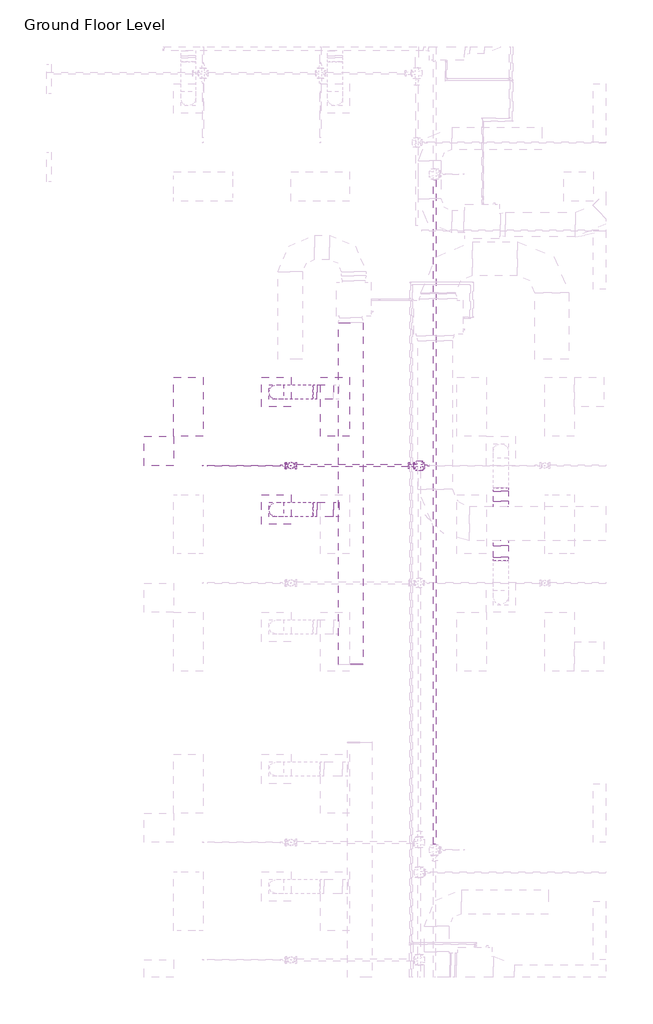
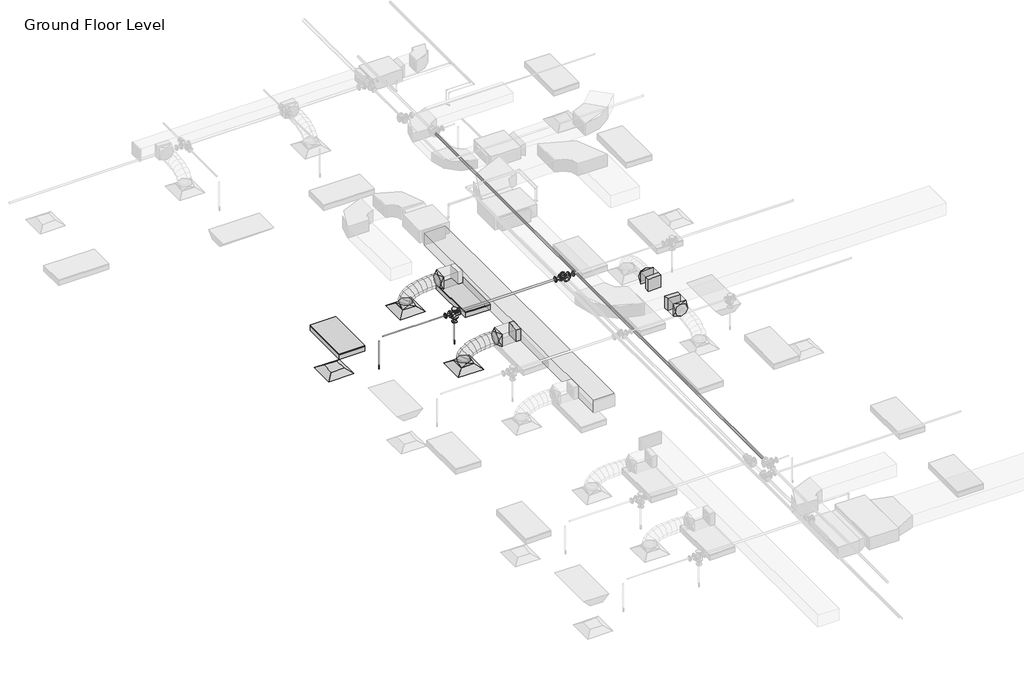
# One storey, part 30 of 74: 9 duct fittings, 7 duct segments, 6 pipe fittings, 5 pipe segments, 3 air terminals, 2 fire suppression terminals, 2 light fixtures.
"""IFC4 building model written with IfcOpenShell, lengths in millimetres."""

from ifc_helpers import new_model, si_unit, point, frame, frame_2d, origin, place, context, project, spatial, polyline, circle_curve, ellipse_curve, trimmed, segment, composite_curve, outline, extrude, transform, mapped, element, save
from ifc_brep_helpers import plane_surface, cylinder_surface, advanced_brep
from components import m_return_diffuser_600_x_600_face_300_x_300_connection_ff221211, m_rectangular_takeoff_standard_cb0ccb98, m_rectangular_takeoff_standard_2be5eba1, m_rectangular_to_round_transition_angle_45_degree_641efff0, m_sprinkler_dry_pendent_hosted_15_mm_dry_pendent_9bda8e11, m_troffer_light_parabolic_rectangular1_0600x1200mm_4_lamp_86473d4a, m_reducer_flanged_cs_class_150_standard_83138b42, m_reducer_flanged_cs_class_150_standard_dc68ad9d, m_reducer_flanged_cs_class_150_standard_678fb8eb, m_reducer_flanged_cs_class_150_standard_84a20e65, m_tee_round_base_flanged_cs_class_150_standard_9c9133d0, m_tee_round_base_flanged_cs_class_150_standard_ab36f383

model = new_model("IFC4")

# Units and contexts
model_context = context("Model", 3, world=origin())
ifc_project = project(units=[si_unit("LENGTHUNIT", "METRE", prefix="MILLI")], contexts=[model_context])

# Site, building, storey
site = spatial("IfcSite", under=ifc_project)
building = spatial("IfcBuilding", under=site)
storey = spatial("IfcBuildingStorey", under=building, Name="Ground Floor Level", Elevation=900.0)

# Air terminals
placement = place(None, origin())
m_return_diffuser_600_x_600_face_300_x_300_connection_shape = m_return_diffuser_600_x_600_face_300_x_300_connection_ff221211(model_context)
element("IfcAirTerminal", 1, ObjectType="M_Return Diffuser : 600 x 600 Face 300 x 300 Connection", at=placement, inside=storey, context=model_context, shape_type="MappedRepresentation", body=[
    mapped(m_return_diffuser_600_x_600_face_300_x_300_connection_shape, transform((362.7672395, -10664.7846466, 3650.0), x_axis=(1.0, 0.0, 0.0), y_axis=(0.0, 1.0, 0.0), z_axis=(0.0, 0.0, 1.0))),
])
element("IfcAirTerminal", 2, ObjectType="M_Supply Diffuser : 600 x 600 Face 300 x 300 Connection", at=placement, inside=storey, context=model_context, shape_type="MappedRepresentation", body=[
    mapped(m_return_diffuser_600_x_600_face_300_x_300_connection_shape, transform((2762.7672395, -9464.7846466, 3650.0), x_axis=(1.0, 0.0, 0.0), y_axis=(0.0, 1.0, 0.0), z_axis=(0.0, 0.0, 1.0))),
])
element("IfcAirTerminal", 3, ObjectType="M_Supply Diffuser : 600 x 600 Face 300 x 300 Connection", at=placement, inside=storey, context=model_context, shape_type="MappedRepresentation", body=[
    mapped(m_return_diffuser_600_x_600_face_300_x_300_connection_shape, transform((2762.7672395, -11864.7846466, 3650.0), x_axis=(1.0, 0.0, 0.0), y_axis=(0.0, 1.0, 0.0), z_axis=(0.0, 0.0, 1.0))),
])

# Duct fittings
m_rectangular_takeoff_standard_shape = m_rectangular_takeoff_standard_cb0ccb98(model_context)
element("IfcDuctFitting", 4, ObjectType="M_Rectangular Takeoff : Standard", at=placement, inside=storey, context=model_context, shape_type="MappedRepresentation", body=[
    mapped(m_rectangular_takeoff_standard_shape, transform((7352.7672395, -11799.3358641, 4099.9875), x_axis=(0.0, 1.0, 0.0), y_axis=(1.0, 0.0, 0.0), z_axis=(0.0, 0.0, -1.0))),
])
m_rectangular_takeoff_standard_2_shape = m_rectangular_takeoff_standard_2be5eba1(model_context)
element("IfcDuctFitting", 5, ObjectType="M_Rectangular Takeoff : Standard", at=placement, inside=storey, context=model_context, shape_type="MappedRepresentation", body=[
    mapped(m_rectangular_takeoff_standard_2_shape, transform((7352.7672395, -12499.3358641, 4099.9875), x_axis=(0.0, -1.0, 0.0), y_axis=(-1.0, 0.0, 0.0), z_axis=(0.0, 0.0, -1.0))),
])
element("IfcDuctFitting", 6, ObjectType="M_Rectangular Takeoff : Standard", at=placement, inside=storey, context=model_context, shape_type="MappedRepresentation", body=[
    mapped(m_rectangular_takeoff_standard_2_shape, transform((4032.1581888, -11864.7846466, 4099.9931113), x_axis=(-1.0, 0.0, 0.0), y_axis=(0.0, 1.0, 0.0), z_axis=(0.0, 0.0, -1.0))),
])
m_rectangular_to_round_transition_angle_45_degree_shape = m_rectangular_to_round_transition_angle_45_degree_641efff0(model_context)
element("IfcDuctFitting", 7, ObjectType="M_Rectangular to Round Transition - Angle : 45 Degree", at=placement, inside=storey, context=model_context, shape_type="MappedRepresentation", body=[
    mapped(m_rectangular_to_round_transition_angle_45_degree_shape, transform((2762.7672395, -9464.7846466, 3751.6), x_axis=(0.0, 0.0, 1.0), y_axis=(-1.0, 0.0, 0.0), z_axis=(0.0, -1.0, 0.0))),
])
element("IfcDuctFitting", 8, ObjectType="M_Rectangular to Round Transition - Angle : 45 Degree", at=placement, inside=storey, context=model_context, shape_type="MappedRepresentation", body=[
    mapped(m_rectangular_to_round_transition_angle_45_degree_shape, transform((3590.1057325, -9464.7846466, 4099.9974383), x_axis=(-1.0, 0.0, 0.0), y_axis=(0.0, -1.0, 0.0), z_axis=(0.0, 0.0, 1.0))),
])
element("IfcDuctFitting", 9, ObjectType="M_Rectangular to Round Transition - Angle : 45 Degree", at=placement, inside=storey, context=model_context, shape_type="MappedRepresentation", body=[
    mapped(m_rectangular_to_round_transition_angle_45_degree_shape, transform((2762.7672395, -11864.7846466, 3751.6), x_axis=(0.0, 0.0, 1.0), y_axis=(-1.0, 0.0, 0.0), z_axis=(0.0, -1.0, 0.0))),
])
element("IfcDuctFitting", 10, ObjectType="M_Rectangular to Round Transition - Angle : 45 Degree", at=placement, inside=storey, context=model_context, shape_type="MappedRepresentation", body=[
    mapped(m_rectangular_to_round_transition_angle_45_degree_shape, transform((3590.1100595, -11864.7846466, 4099.9931113), x_axis=(-1.0, 0.0, 0.0), y_axis=(0.0, -1.0, 0.0), z_axis=(0.0, 0.0, 1.0))),
])
element("IfcDuctFitting", 11, ObjectType="M_Rectangular to Round Transition - Angle : 45 Degree", at=placement, inside=storey, context=model_context, shape_type="MappedRepresentation", body=[
    mapped(m_rectangular_to_round_transition_angle_45_degree_shape, transform((7352.7672395, -11492.1330779, 4099.9875), x_axis=(0.0, 1.0, 0.0), y_axis=(-1.0, 0.0, 0.0), z_axis=(0.0, 0.0, 1.0))),
])
element("IfcDuctFitting", 12, ObjectType="M_Rectangular to Round Transition - Angle : 45 Degree", at=placement, inside=storey, context=model_context, shape_type="MappedRepresentation", body=[
    mapped(m_rectangular_to_round_transition_angle_45_degree_shape, transform((7352.7672395, -12837.4362153, 4099.9875), x_axis=(0.0, -1.0, 0.0), y_axis=(1.0, 0.0, 0.0), z_axis=(0.0, 0.0, 1.0))),
])

# Duct segments
element("IfcDuctSegment", 13, ObjectType="Flex - Round", at=placement, inside=storey, context=model_context, shape_type="AdvancedBrep", body=[
    advanced_brep(
    [(2912.7672395, -9464.7846466, 3826.6), (2762.7672395, -9614.7846466, 3826.6), (2612.7672395, -9464.7846466, 3826.6), (2762.7672395, -9314.7846466, 3826.6), (2912.7672395, -9464.7846466, 3832.2944653), (2762.7672395, -9614.7846466, 3857.937819), (2612.7672395, -9464.7846466, 3883.5811727), (2762.7672395, -9314.7846466, 3857.937819), (2913.5210607, -9464.7846466, 3834.4347571), (2779.7832431, -9614.7846466, 3906.2506195), (2646.0454255, -9464.7846466, 3978.066482), (2779.7832431, -9314.7846466, 3906.2506195), (2931.1727776, -9464.7846466, 3857.8014637), (2826.9673168, -9614.7846466, 3968.7111959), (2722.761856, -9464.7846466, 4079.620928), (2826.9673168, -9314.7846466, 3968.7111959), (2967.4569198, -9464.7846466, 3881.8155831), (2898.5235552, -9614.7846466, 4016.0696268), (2829.5901905, -9464.7846466, 4150.3236705), (2898.5235552, -9314.7846466, 4016.0696268), (3032.2160605, -9464.7846466, 3906.4914754), (2988.6560526, -9614.7846466, 4050.4138102), (2945.0960447, -9464.7846466, 4194.336145), (2988.6560526, -9314.7846466, 4050.4138102), (3118.1291117, -9464.7846466, 3926.0410022), (3091.5689036, -9614.7846466, 4073.8316439), (3065.0086955, -9464.7846466, 4221.6222855), (3091.5689036, -9314.7846466, 4073.8316439), (3216.6164827, -9464.7846466, 3939.1067008), (3201.4662026, -9614.7846466, 4088.4110257), (3186.3159225, -9464.7846466, 4237.7153505), (3201.4662026, -9314.7846466, 4088.4110257), (3320.0568882, -9464.7846466, 3946.3967129), (3312.5520441, -9614.7846466, 4096.2398535), (3305.0472001, -9464.7846466, 4246.0829941), (3312.5520441, -9314.7846466, 4096.2398535), (3421.7217312, -9464.7846466, 3949.4197495), (3419.0305226, -9614.7846466, 4099.4060251), (3416.339314, -9464.7846466, 4249.3923007), (3419.0305226, -9314.7846466, 4099.4060251), (3516.0290748, -9464.7846466, 3950.0002802), (3515.1057325, -9614.7846466, 4099.9974383), (3514.1823902, -9464.7846466, 4249.9945964), (3515.1057325, -9314.7846466, 4099.9974383)],
    [
        (0, 1, circle_curve(frame((2762.7672395, -9464.7846466, 3826.6), z_axis=(0.0, 0.0, -1.0), x_axis=(1.0, 0.0, 0.0)), 150.0)),
        (1, 2, circle_curve(frame((2762.7672395, -9464.7846466, 3826.6), z_axis=(0.0, 0.0, -1.0), x_axis=(1.0, 0.0, 0.0)), 150.0)),
        (2, 3, circle_curve(frame((2762.7672395, -9464.7846466, 3826.6), z_axis=(0.0, 0.0, -1.0), x_axis=(1.0, 0.0, 0.0)), 150.0)),
        (3, 0, circle_curve(frame((2762.7672395, -9464.7846466, 3826.6), z_axis=(0.0, 0.0, -1.0), x_axis=(1.0, 0.0, 0.0)), 150.0)),
        (0, 4),
        (4, 5, ellipse_curve(frame((2762.7672395, -9464.7846466, 3857.937819), z_axis=(-0.1685109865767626, 0.0, -0.9856997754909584), x_axis=(0.9856997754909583, 0.0, -0.16851098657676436)), 152.1761532, 150.0)),
        (5, 1),
        (5, 6, ellipse_curve(frame((2762.7672395, -9464.7846466, 3857.937819), z_axis=(-0.1685109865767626, 0.0, -0.9856997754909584), x_axis=(0.9856997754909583, 0.0, -0.16851098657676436)), 152.1761532, 150.0)),
        (6, 2),
        (6, 7, ellipse_curve(frame((2762.7672395, -9464.7846466, 3857.937819), z_axis=(-0.1685109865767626, 0.0, -0.9856997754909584), x_axis=(0.9856997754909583, 0.0, -0.16851098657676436)), 152.1761532, 150.0)),
        (7, 3),
        (7, 4, ellipse_curve(frame((2762.7672395, -9464.7846466, 3857.937819), z_axis=(-0.1685109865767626, 0.0, -0.9856997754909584), x_axis=(0.9856997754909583, 0.0, -0.16851098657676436)), 152.1761532, 150.0)),
        (4, 8),
        (8, 9, ellipse_curve(frame((2779.7832431, -9464.7846466, 3906.2506195), z_axis=(-0.47309443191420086, 0.0, -0.8810117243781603), x_axis=(0.8810117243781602, 0.0, -0.4730944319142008)), 151.80027, 150.0)),
        (9, 5),
        (9, 10, ellipse_curve(frame((2779.7832431, -9464.7846466, 3906.2506195), z_axis=(-0.47309443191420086, 0.0, -0.8810117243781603), x_axis=(0.8810117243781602, 0.0, -0.4730944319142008)), 151.80027, 150.0)),
        (10, 6),
        (10, 11, ellipse_curve(frame((2779.7832431, -9464.7846466, 3906.2506195), z_axis=(-0.47309443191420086, 0.0, -0.8810117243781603), x_axis=(0.8810117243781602, 0.0, -0.4730944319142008)), 151.80027, 150.0)),
        (11, 7),
        (11, 8, ellipse_curve(frame((2779.7832431, -9464.7846466, 3906.2506195), z_axis=(-0.47309443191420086, 0.0, -0.8810117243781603), x_axis=(0.8810117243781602, 0.0, -0.4730944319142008)), 151.80027, 150.0)),
        (8, 12),
        (12, 13, ellipse_curve(frame((2826.9673168, -9464.7846466, 3968.7111959), z_axis=(-0.7287905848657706, 0.0, -0.6847366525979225), x_axis=(0.6847366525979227, 0.0, -0.7287905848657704)), 152.1832669, 150.0)),
        (13, 9),
        (13, 14, ellipse_curve(frame((2826.9673168, -9464.7846466, 3968.7111959), z_axis=(-0.7287905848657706, 0.0, -0.6847366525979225), x_axis=(0.6847366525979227, 0.0, -0.7287905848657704)), 152.1832669, 150.0)),
        (14, 10),
        (14, 15, ellipse_curve(frame((2826.9673168, -9464.7846466, 3968.7111959), z_axis=(-0.7287905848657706, 0.0, -0.6847366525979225), x_axis=(0.6847366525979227, 0.0, -0.7287905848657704)), 152.1832669, 150.0)),
        (15, 11),
        (15, 12, ellipse_curve(frame((2826.9673168, -9464.7846466, 3968.7111959), z_axis=(-0.7287905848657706, 0.0, -0.6847366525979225), x_axis=(0.6847366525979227, 0.0, -0.7287905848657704)), 152.1832669, 150.0)),
        (12, 16),
        (16, 17, ellipse_curve(frame((2898.5235552, -9464.7846466, 4016.0696268), z_axis=(-0.8895882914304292, 0.0, -0.45676325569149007), x_axis=(0.45676325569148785, 0.0, -0.8895882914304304)), 150.9170535, 150.0)),
        (17, 13),
        (17, 18, ellipse_curve(frame((2898.5235552, -9464.7846466, 4016.0696268), z_axis=(-0.8895882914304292, 0.0, -0.45676325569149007), x_axis=(0.45676325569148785, 0.0, -0.8895882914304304)), 150.9170535, 150.0)),
        (18, 14),
        (18, 19, ellipse_curve(frame((2898.5235552, -9464.7846466, 4016.0696268), z_axis=(-0.8895882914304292, 0.0, -0.45676325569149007), x_axis=(0.45676325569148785, 0.0, -0.8895882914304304)), 150.9170535, 150.0)),
        (19, 15),
        (19, 16, ellipse_curve(frame((2898.5235552, -9464.7846466, 4016.0696268), z_axis=(-0.8895882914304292, 0.0, -0.45676325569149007), x_axis=(0.45676325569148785, 0.0, -0.8895882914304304)), 150.9170535, 150.0)),
        (16, 20),
        (20, 21, ellipse_curve(frame((2988.6560526, -9464.7846466, 4050.4138102), z_axis=(-0.9571218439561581, 0.0, -0.2896856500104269), x_axis=(0.28968565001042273, 0.0, -0.9571218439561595)), 150.3699197, 150.0)),
        (21, 17),
        (21, 22, ellipse_curve(frame((2988.6560526, -9464.7846466, 4050.4138102), z_axis=(-0.9571218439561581, 0.0, -0.2896856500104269), x_axis=(0.28968565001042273, 0.0, -0.9571218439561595)), 150.3699197, 150.0)),
        (22, 18),
        (22, 23, ellipse_curve(frame((2988.6560526, -9464.7846466, 4050.4138102), z_axis=(-0.9571218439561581, 0.0, -0.2896856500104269), x_axis=(0.28968565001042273, 0.0, -0.9571218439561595)), 150.3699197, 150.0)),
        (23, 19),
        (23, 20, ellipse_curve(frame((2988.6560526, -9464.7846466, 4050.4138102), z_axis=(-0.9571218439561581, 0.0, -0.2896856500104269), x_axis=(0.28968565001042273, 0.0, -0.9571218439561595)), 150.3699197, 150.0)),
        (20, 24),
        (24, 25, ellipse_curve(frame((3091.5689036, -9464.7846466, 4073.8316439), z_axis=(-0.9842321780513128, 0.0, -0.1768813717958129), x_axis=(0.17688137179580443, 0.0, -0.9842321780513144)), 150.1583111, 150.0)),
        (25, 21),
        (25, 26, ellipse_curve(frame((3091.5689036, -9464.7846466, 4073.8316439), z_axis=(-0.9842321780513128, 0.0, -0.1768813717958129), x_axis=(0.17688137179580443, 0.0, -0.9842321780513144)), 150.1583111, 150.0)),
        (26, 22),
        (26, 27, ellipse_curve(frame((3091.5689036, -9464.7846466, 4073.8316439), z_axis=(-0.9842321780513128, 0.0, -0.1768813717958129), x_axis=(0.17688137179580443, 0.0, -0.9842321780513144)), 150.1583111, 150.0)),
        (27, 23),
        (27, 24, ellipse_curve(frame((3091.5689036, -9464.7846466, 4073.8316439), z_axis=(-0.9842321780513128, 0.0, -0.1768813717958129), x_axis=(0.17688137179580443, 0.0, -0.9842321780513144)), 150.1583111, 150.0)),
        (24, 28),
        (28, 29, ellipse_curve(frame((3201.4662026, -9464.7846466, 4088.4110257), z_axis=(-0.994891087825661, 0.0, -0.10095406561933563), x_axis=(0.10095406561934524, 0.0, -0.99489108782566)), 150.0710245, 150.0)),
        (29, 25),
        (29, 30, ellipse_curve(frame((3201.4662026, -9464.7846466, 4088.4110257), z_axis=(-0.994891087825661, 0.0, -0.10095406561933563), x_axis=(0.10095406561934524, 0.0, -0.99489108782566)), 150.0710245, 150.0)),
        (30, 26),
        (30, 31, ellipse_curve(frame((3201.4662026, -9464.7846466, 4088.4110257), z_axis=(-0.994891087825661, 0.0, -0.10095406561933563), x_axis=(0.10095406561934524, 0.0, -0.99489108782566)), 150.0710245, 150.0)),
        (31, 27),
        (31, 28, ellipse_curve(frame((3201.4662026, -9464.7846466, 4088.4110257), z_axis=(-0.994891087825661, 0.0, -0.10095406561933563), x_axis=(0.10095406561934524, 0.0, -0.99489108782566)), 150.0710245, 150.0)),
        (28, 32),
        (32, 33, ellipse_curve(frame((3312.5520441, -9464.7846466, 4096.2398535), z_axis=(-0.9987481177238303, 0.0, -0.05002196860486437), x_axis=(0.05002196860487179, 0.0, -0.9987481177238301)), 150.0309617, 150.0)),
        (33, 29),
        (33, 34, ellipse_curve(frame((3312.5520441, -9464.7846466, 4096.2398535), z_axis=(-0.9987481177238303, 0.0, -0.05002196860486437), x_axis=(0.05002196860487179, 0.0, -0.9987481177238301)), 150.0309617, 150.0)),
        (34, 30),
        (34, 35, ellipse_curve(frame((3312.5520441, -9464.7846466, 4096.2398535), z_axis=(-0.9987481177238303, 0.0, -0.05002196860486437), x_axis=(0.05002196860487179, 0.0, -0.9987481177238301)), 150.0309617, 150.0)),
        (35, 31),
        (35, 32, ellipse_curve(frame((3312.5520441, -9464.7846466, 4096.2398535), z_axis=(-0.9987481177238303, 0.0, -0.05002196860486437), x_axis=(0.05002196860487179, 0.0, -0.9987481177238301)), 150.0309617, 150.0)),
        (32, 36),
        (36, 37, ellipse_curve(frame((3419.0305226, -9464.7846466, 4099.4060251), z_axis=(-0.9998390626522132, 0.0, -0.01794014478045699), x_axis=(0.017940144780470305, 0.0, -0.9998390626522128)), 150.0104179, 150.0)),
        (37, 33),
        (37, 38, ellipse_curve(frame((3419.0305226, -9464.7846466, 4099.4060251), z_axis=(-0.9998390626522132, 0.0, -0.01794014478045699), x_axis=(0.017940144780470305, 0.0, -0.9998390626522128)), 150.0104179, 150.0)),
        (38, 34),
        (38, 39, ellipse_curve(frame((3419.0305226, -9464.7846466, 4099.4060251), z_axis=(-0.9998390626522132, 0.0, -0.01794014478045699), x_axis=(0.017940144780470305, 0.0, -0.9998390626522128)), 150.0104179, 150.0)),
        (39, 35),
        (39, 36, ellipse_curve(frame((3419.0305226, -9464.7846466, 4099.4060251), z_axis=(-0.9998390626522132, 0.0, -0.01794014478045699), x_axis=(0.017940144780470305, 0.0, -0.9998390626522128)), 150.0104179, 150.0)),
        (36, 40),
        (40, 41, circle_curve(frame((3515.1057325, -9464.7846466, 4099.9974383), z_axis=(-0.9999810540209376, 0.0, -0.006155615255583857), x_axis=(0.006155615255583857, 0.0, -0.9999810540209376)), 150.0)),
        (41, 37),
        (41, 42, circle_curve(frame((3515.1057325, -9464.7846466, 4099.9974383), z_axis=(-0.9999810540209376, 0.0, -0.006155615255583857), x_axis=(0.006155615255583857, 0.0, -0.9999810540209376)), 150.0)),
        (42, 38),
        (42, 43, circle_curve(frame((3515.1057325, -9464.7846466, 4099.9974383), z_axis=(-0.9999810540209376, 0.0, -0.006155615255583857), x_axis=(0.006155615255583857, 0.0, -0.9999810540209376)), 150.0)),
        (43, 39),
        (43, 40, circle_curve(frame((3515.1057325, -9464.7846466, 4099.9974383), z_axis=(-0.9999810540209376, 0.0, -0.006155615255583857), x_axis=(0.006155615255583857, 0.0, -0.9999810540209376)), 150.0)),
    ],
    [
        plane_surface(frame((2762.7672395, -9614.7846466, 3826.6), z_axis=(0.0, 0.0, -1.0), x_axis=(1.0, 0.0, 0.0))),
        cylinder_surface(frame((2762.7672395, -9464.7846466, 3826.6), z_axis=(0.0, 0.0, -1.0), x_axis=(1.0, 0.0, 0.0)), 150.0),
        cylinder_surface(frame((2762.7672395, -9464.7846466, 3857.937819), z_axis=(-0.3322024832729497, 0.0, -0.9432080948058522), x_axis=(0.9432080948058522, 0.0, -0.3322024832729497)), 150.0),
        cylinder_surface(frame((2779.7832431, -9464.7846466, 3906.2506195), z_axis=(-0.6027650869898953, 0.0, -0.7979186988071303), x_axis=(0.7979186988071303, 0.0, -0.6027650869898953)), 150.0),
        cylinder_surface(frame((2826.9673168, -9464.7846466, 3968.7111959), z_axis=(-0.8339051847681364, 0.0, -0.5519077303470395), x_axis=(0.5519077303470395, 0.0, -0.8339051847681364)), 150.0),
        cylinder_surface(frame((2898.5235552, -9464.7846466, 4016.0696268), z_axis=(-0.9344601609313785, 0.0, -0.3560677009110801), x_axis=(0.3560677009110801, 0.0, -0.9344601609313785)), 150.0),
        cylinder_surface(frame((2988.6560526, -9464.7846466, 4050.4138102), z_axis=(-0.9750743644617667, 0.0, -0.22187830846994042), x_axis=(0.22187830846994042, 0.0, -0.9750743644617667)), 150.0),
        cylinder_surface(frame((3091.5689036, -9464.7846466, 4073.8316439), z_axis=(-0.9913146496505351, 0.0, -0.13151146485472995), x_axis=(0.13151146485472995, 0.0, -0.9913146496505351)), 150.0),
        cylinder_surface(frame((3201.4662026, -9464.7846466, 4088.4110257), z_axis=(-0.99752581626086, 0.0, -0.07030110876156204), x_axis=(0.07030110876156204, 0.0, -0.99752581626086)), 150.0),
        cylinder_surface(frame((3312.5520441, -9464.7846466, 4096.2398535), z_axis=(-0.9995581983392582, 0.0, -0.029722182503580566), x_axis=(0.029722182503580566, 0.0, -0.9995581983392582)), 150.0),
        cylinder_surface(frame((3419.0305226, -9464.7846466, 4099.4060251), z_axis=(-0.9999810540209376, 0.0, -0.006155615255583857), x_axis=(0.006155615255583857, 0.0, -0.9999810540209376)), 150.0),
        plane_surface(frame((3515.1057325, -9614.7846466, 4099.9974383), z_axis=(0.9999810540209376, 0.0, 0.006155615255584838), x_axis=(0.006155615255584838, 0.0, -0.9999810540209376))),
    ],
    [
        (0, [[1, 2, 3, 4]]),
        (1, [[-1, 5, 6, 7]]),
        (1, [[-2, -7, 8, 9]]),
        (1, [[-3, -9, 10, 11]]),
        (1, [[-4, -11, 12, -5]]),
        (2, [[-6, 13, 14, 15]]),
        (2, [[-8, -15, 16, 17]]),
        (2, [[-10, -17, 18, 19]]),
        (2, [[-12, -19, 20, -13]]),
        (3, [[-14, 21, 22, 23]]),
        (3, [[-16, -23, 24, 25]]),
        (3, [[-18, -25, 26, 27]]),
        (3, [[-20, -27, 28, -21]]),
        (4, [[-22, 29, 30, 31]]),
        (4, [[-24, -31, 32, 33]]),
        (4, [[-26, -33, 34, 35]]),
        (4, [[-28, -35, 36, -29]]),
        (5, [[-30, 37, 38, 39]]),
        (5, [[-32, -39, 40, 41]]),
        (5, [[-34, -41, 42, 43]]),
        (5, [[-36, -43, 44, -37]]),
        (6, [[-38, 45, 46, 47]]),
        (6, [[-40, -47, 48, 49]]),
        (6, [[-42, -49, 50, 51]]),
        (6, [[-44, -51, 52, -45]]),
        (7, [[-46, 53, 54, 55]]),
        (7, [[-48, -55, 56, 57]]),
        (7, [[-50, -57, 58, 59]]),
        (7, [[-52, -59, 60, -53]]),
        (8, [[-54, 61, 62, 63]]),
        (8, [[-56, -63, 64, 65]]),
        (8, [[-58, -65, 66, 67]]),
        (8, [[-60, -67, 68, -61]]),
        (9, [[-62, 69, 70, 71]]),
        (9, [[-64, -71, 72, 73]]),
        (9, [[-66, -73, 74, 75]]),
        (9, [[-68, -75, 76, -69]]),
        (10, [[-70, 77, 78, 79]]),
        (10, [[-72, -79, 80, 81]]),
        (10, [[-74, -81, 82, 83]]),
        (10, [[-76, -83, 84, -77]]),
        (11, [[-84, -82, -80, -78]]),
    ],
),
])
element("IfcDuctSegment", 14, ObjectType="Flex - Round", at=placement, inside=storey, context=model_context, shape_type="AdvancedBrep", body=[
    advanced_brep(
    [(2912.7672395, -11864.7846466, 3826.6), (2762.7672395, -12014.7846466, 3826.6), (2612.7672395, -11864.7846466, 3826.6), (2762.7672395, -11714.7846466, 3826.6), (2912.7672395, -11864.7846466, 3832.2944249), (2762.7672395, -12014.7846466, 3857.9380006), (2612.7672395, -11864.7846466, 3883.5815763), (2762.7672395, -11714.7846466, 3857.9380006), (2913.5209081, -11864.7846466, 3834.434264), (2779.783363, -12014.7846466, 3906.2506984), (2646.045818, -11864.7846466, 3978.0671329), (2779.783363, -11714.7846466, 3906.2506984), (2931.1724836, -11864.7846466, 3857.8005181), (2826.9677634, -12014.7846466, 3968.7109978), (2722.7630433, -11864.7846466, 4079.6214776), (2826.9677634, -11714.7846466, 3968.7109978), (2967.4566828, -11864.7846466, 3881.8142389), (2898.5244852, -12014.7846466, 4016.0688885), (2829.5922876, -11864.7846466, 4150.3235382), (2898.5244852, -11714.7846466, 4016.0688885), (3032.2163051, -11864.7846466, 3906.4896423), (2988.6575729, -12014.7846466, 4050.4123609), (2945.0988407, -11864.7846466, 4194.3350795), (2988.6575729, -11714.7846466, 4050.4123609), (3118.1300698, -11864.7846466, 3926.0385497), (3091.5710711, -12014.7846466, 4073.8294054), (3065.0120723, -11864.7846466, 4221.620261), (3091.5710711, -11714.7846466, 4073.8294054), (3216.6182532, -11864.7846466, 3939.1035838), (3201.4690243, -12014.7846466, 4088.4080122), (3186.3197953, -11864.7846466, 4237.7124407), (3201.4690243, -11714.7846466, 4088.4080122), (3320.0595033, -11864.7846466, 3946.3929932), (3312.555477, -12014.7846466, 4096.2361719), (3305.0514507, -11864.7846466, 4246.0793507), (3312.555477, -11714.7846466, 4096.2361719), (3421.725202, -11864.7846466, 3949.415593), (3419.0344739, -12014.7846466, 4099.4018748), (3416.3437458, -11864.7846466, 4249.3881567), (3419.0344739, -11714.7846466, 4099.4018748), (3516.0331222, -11864.7846466, 3949.9959514), (3515.1100595, -12014.7846466, 4099.9931113), (3514.1869969, -11864.7846466, 4249.9902711), (3515.1100595, -11714.7846466, 4099.9931113)],
    [
        (0, 1, circle_curve(frame((2762.7672395, -11864.7846466, 3826.6), z_axis=(0.0, 0.0, -1.0), x_axis=(1.0, 0.0, 0.0)), 150.0)),
        (1, 2, circle_curve(frame((2762.7672395, -11864.7846466, 3826.6), z_axis=(0.0, 0.0, -1.0), x_axis=(1.0, 0.0, 0.0)), 150.0)),
        (2, 3, circle_curve(frame((2762.7672395, -11864.7846466, 3826.6), z_axis=(0.0, 0.0, -1.0), x_axis=(1.0, 0.0, 0.0)), 150.0)),
        (3, 0, circle_curve(frame((2762.7672395, -11864.7846466, 3826.6), z_axis=(0.0, 0.0, -1.0), x_axis=(1.0, 0.0, 0.0)), 150.0)),
        (0, 4),
        (4, 5, ellipse_curve(frame((2762.7672395, -11864.7846466, 3857.9380006), z_axis=(-0.1685124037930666, 0.0, -0.985699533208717), x_axis=(0.985699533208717, 0.0, -0.16851240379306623)), 152.1761906, 150.0)),
        (5, 1),
        (5, 6, ellipse_curve(frame((2762.7672395, -11864.7846466, 3857.9380006), z_axis=(-0.1685124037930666, 0.0, -0.985699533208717), x_axis=(0.985699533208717, 0.0, -0.16851240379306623)), 152.1761906, 150.0)),
        (6, 2),
        (6, 7, ellipse_curve(frame((2762.7672395, -11864.7846466, 3857.9380006), z_axis=(-0.1685124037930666, 0.0, -0.985699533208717), x_axis=(0.985699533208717, 0.0, -0.16851240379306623)), 152.1761906, 150.0)),
        (7, 3),
        (7, 4, ellipse_curve(frame((2762.7672395, -11864.7846466, 3857.9380006), z_axis=(-0.1685124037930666, 0.0, -0.985699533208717), x_axis=(0.985699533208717, 0.0, -0.16851240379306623)), 152.1761906, 150.0)),
        (4, 8),
        (8, 9, ellipse_curve(frame((2779.783363, -11864.7846466, 3906.2506984), z_axis=(-0.47309810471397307, 0.0, -0.8810097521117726), x_axis=(0.8810097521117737, 0.0, -0.47309810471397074)), 151.8003005, 150.0)),
        (9, 5),
        (9, 10, ellipse_curve(frame((2779.783363, -11864.7846466, 3906.2506984), z_axis=(-0.47309810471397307, 0.0, -0.8810097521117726), x_axis=(0.8810097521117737, 0.0, -0.47309810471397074)), 151.8003005, 150.0)),
        (10, 6),
        (10, 11, ellipse_curve(frame((2779.783363, -11864.7846466, 3906.2506984), z_axis=(-0.47309810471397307, 0.0, -0.8810097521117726), x_axis=(0.8810097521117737, 0.0, -0.47309810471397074)), 151.8003005, 150.0)),
        (11, 7),
        (11, 8, ellipse_curve(frame((2779.783363, -11864.7846466, 3906.2506984), z_axis=(-0.47309810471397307, 0.0, -0.8810097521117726), x_axis=(0.8810097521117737, 0.0, -0.47309810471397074)), 151.8003005, 150.0)),
        (8, 12),
        (12, 13, ellipse_curve(frame((2826.9677634, -11864.7846466, 3968.7109978), z_axis=(-0.7287953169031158, 0.0, -0.684731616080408), x_axis=(0.6847316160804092, 0.0, -0.7287953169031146)), 152.1833047, 150.0)),
        (13, 9),
        (13, 14, ellipse_curve(frame((2826.9677634, -11864.7846466, 3968.7109978), z_axis=(-0.7287953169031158, 0.0, -0.684731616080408), x_axis=(0.6847316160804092, 0.0, -0.7287953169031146)), 152.1833047, 150.0)),
        (14, 10),
        (14, 15, ellipse_curve(frame((2826.9677634, -11864.7846466, 3968.7109978), z_axis=(-0.7287953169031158, 0.0, -0.684731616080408), x_axis=(0.6847316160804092, 0.0, -0.7287953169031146)), 152.1833047, 150.0)),
        (15, 11),
        (15, 12, ellipse_curve(frame((2826.9677634, -11864.7846466, 3968.7109978), z_axis=(-0.7287953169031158, 0.0, -0.684731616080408), x_axis=(0.6847316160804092, 0.0, -0.7287953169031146)), 152.1833047, 150.0)),
        (12, 16),
        (16, 17, ellipse_curve(frame((2898.5244852, -11864.7846466, 4016.0688885), z_axis=(-0.8895922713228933, 0.0, -0.45675550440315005), x_axis=(0.4567555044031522, 0.0, -0.8895922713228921)), 150.9170594, 150.0)),
        (17, 13),
        (17, 18, ellipse_curve(frame((2898.5244852, -11864.7846466, 4016.0688885), z_axis=(-0.8895922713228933, 0.0, -0.45675550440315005), x_axis=(0.4567555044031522, 0.0, -0.8895922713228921)), 150.9170594, 150.0)),
        (18, 14),
        (18, 19, ellipse_curve(frame((2898.5244852, -11864.7846466, 4016.0688885), z_axis=(-0.8895922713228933, 0.0, -0.45675550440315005), x_axis=(0.4567555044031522, 0.0, -0.8895922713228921)), 150.9170594, 150.0)),
        (19, 15),
        (19, 16, ellipse_curve(frame((2898.5244852, -11864.7846466, 4016.0688885), z_axis=(-0.8895922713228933, 0.0, -0.45675550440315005), x_axis=(0.4567555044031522, 0.0, -0.8895922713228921)), 150.9170594, 150.0)),
        (16, 20),
        (20, 21, ellipse_curve(frame((2988.6575729, -11864.7846466, 4050.4123609), z_axis=(-0.957124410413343, 0.0, -0.289677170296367), x_axis=(0.28967717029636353, 0.0, -0.9571244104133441)), 150.3699175, 150.0)),
        (21, 17),
        (21, 22, ellipse_curve(frame((2988.6575729, -11864.7846466, 4050.4123609), z_axis=(-0.957124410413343, 0.0, -0.289677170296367), x_axis=(0.28967717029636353, 0.0, -0.9571244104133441)), 150.3699175, 150.0)),
        (22, 18),
        (22, 23, ellipse_curve(frame((2988.6575729, -11864.7846466, 4050.4123609), z_axis=(-0.957124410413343, 0.0, -0.289677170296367), x_axis=(0.28967717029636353, 0.0, -0.9571244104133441)), 150.3699175, 150.0)),
        (23, 19),
        (23, 20, ellipse_curve(frame((2988.6575729, -11864.7846466, 4050.4123609), z_axis=(-0.957124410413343, 0.0, -0.289677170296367), x_axis=(0.28967717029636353, 0.0, -0.9571244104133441)), 150.3699175, 150.0)),
        (20, 24),
        (24, 25, ellipse_curve(frame((3091.5710711, -11864.7846466, 4073.8294054), z_axis=(-0.9842336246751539, 0.0, -0.1768733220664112), x_axis=(0.17687332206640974, 0.0, -0.9842336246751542)), 150.1583079, 150.0)),
        (25, 21),
        (25, 26, ellipse_curve(frame((3091.5710711, -11864.7846466, 4073.8294054), z_axis=(-0.9842336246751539, 0.0, -0.1768733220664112), x_axis=(0.17687332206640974, 0.0, -0.9842336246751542)), 150.1583079, 150.0)),
        (26, 22),
        (26, 27, ellipse_curve(frame((3091.5710711, -11864.7846466, 4073.8294054), z_axis=(-0.9842336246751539, 0.0, -0.1768733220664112), x_axis=(0.17687332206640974, 0.0, -0.9842336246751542)), 150.1583079, 150.0)),
        (27, 23),
        (27, 24, ellipse_curve(frame((3091.5710711, -11864.7846466, 4073.8294054), z_axis=(-0.9842336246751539, 0.0, -0.1768733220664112), x_axis=(0.17687332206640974, 0.0, -0.9842336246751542)), 150.1583079, 150.0)),
        (24, 28),
        (28, 29, ellipse_curve(frame((3201.4690243, -11864.7846466, 4088.4080122), z_axis=(-0.9948917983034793, 0.0, -0.10094706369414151), x_axis=(0.10094706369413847, 0.0, -0.9948917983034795)), 150.0710214, 150.0)),
        (29, 25),
        (29, 30, ellipse_curve(frame((3201.4690243, -11864.7846466, 4088.4080122), z_axis=(-0.9948917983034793, 0.0, -0.10094706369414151), x_axis=(0.10094706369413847, 0.0, -0.9948917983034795)), 150.0710214, 150.0)),
        (30, 26),
        (30, 31, ellipse_curve(frame((3201.4690243, -11864.7846466, 4088.4080122), z_axis=(-0.9948917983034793, 0.0, -0.10094706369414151), x_axis=(0.10094706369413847, 0.0, -0.9948917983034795)), 150.0710214, 150.0)),
        (31, 27),
        (31, 28, ellipse_curve(frame((3201.4690243, -11864.7846466, 4088.4080122), z_axis=(-0.9948917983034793, 0.0, -0.10094706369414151), x_axis=(0.10094706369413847, 0.0, -0.9948917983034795)), 150.0710214, 150.0)),
        (28, 32),
        (32, 33, ellipse_curve(frame((3312.555477, -11864.7846466, 4096.2361719), z_axis=(-0.99874839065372, 0.0, -0.050016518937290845), x_axis=(0.050016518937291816, 0.0, -0.99874839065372)), 150.0309589, 150.0)),
        (33, 29),
        (33, 34, ellipse_curve(frame((3312.555477, -11864.7846466, 4096.2361719), z_axis=(-0.99874839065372, 0.0, -0.050016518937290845), x_axis=(0.050016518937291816, 0.0, -0.99874839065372)), 150.0309589, 150.0)),
        (34, 30),
        (34, 35, ellipse_curve(frame((3312.555477, -11864.7846466, 4096.2361719), z_axis=(-0.99874839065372, 0.0, -0.050016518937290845), x_axis=(0.050016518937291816, 0.0, -0.99874839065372)), 150.0309589, 150.0)),
        (35, 31),
        (35, 32, ellipse_curve(frame((3312.555477, -11864.7846466, 4096.2361719), z_axis=(-0.99874839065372, 0.0, -0.050016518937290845), x_axis=(0.050016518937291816, 0.0, -0.99874839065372)), 150.0309589, 150.0)),
        (32, 36),
        (36, 37, ellipse_curve(frame((3419.0344739, -11864.7846466, 4099.4018748), z_axis=(-0.999839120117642, 0.0, -0.017936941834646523), x_axis=(0.017936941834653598, 1.819106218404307e-12, -0.9998391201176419)), 150.0104155, 150.0)),
        (37, 33),
        (37, 38, ellipse_curve(frame((3419.0344739, -11864.7846466, 4099.4018748), z_axis=(-0.999839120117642, 0.0, -0.017936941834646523), x_axis=(0.017936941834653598, 1.819106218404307e-12, -0.9998391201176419)), 150.0104155, 150.0)),
        (38, 34),
        (38, 39, ellipse_curve(frame((3419.0344739, -11864.7846466, 4099.4018748), z_axis=(-0.999839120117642, 0.0, -0.017936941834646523), x_axis=(0.017936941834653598, 1.819106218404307e-12, -0.9998391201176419)), 150.0104155, 150.0)),
        (39, 35),
        (39, 36, ellipse_curve(frame((3419.0344739, -11864.7846466, 4099.4018748), z_axis=(-0.999839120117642, 0.0, -0.017936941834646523), x_axis=(0.017936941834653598, 1.819106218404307e-12, -0.9998391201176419)), 150.0104155, 150.0)),
        (36, 40),
        (40, 41, circle_curve(frame((3515.1100595, -11864.7846466, 4099.9931113), z_axis=(-0.9999810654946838, 0.0, -0.006153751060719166), x_axis=(0.006153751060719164, 0.0, -0.9999810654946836)), 150.0)),
        (41, 37),
        (41, 42, circle_curve(frame((3515.1100595, -11864.7846466, 4099.9931113), z_axis=(-0.9999810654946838, 0.0, -0.006153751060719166), x_axis=(0.006153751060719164, 0.0, -0.9999810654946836)), 150.0)),
        (42, 38),
        (42, 43, circle_curve(frame((3515.1100595, -11864.7846466, 4099.9931113), z_axis=(-0.9999810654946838, 0.0, -0.006153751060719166), x_axis=(0.006153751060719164, 0.0, -0.9999810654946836)), 150.0)),
        (43, 39),
        (43, 40, circle_curve(frame((3515.1100595, -11864.7846466, 4099.9931113), z_axis=(-0.9999810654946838, 0.0, -0.006153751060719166), x_axis=(0.006153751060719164, 0.0, -0.9999810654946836)), 150.0)),
    ],
    [
        plane_surface(frame((2762.7672395, -12014.7846466, 3826.6), z_axis=(0.0, 0.0, -1.0), x_axis=(1.0, 0.0, 0.0))),
        cylinder_surface(frame((2762.7672395, -11864.7846466, 3826.6), z_axis=(0.0, 0.0, -1.0), x_axis=(1.0, 0.0, 0.0)), 150.0),
        cylinder_surface(frame((2762.7672395, -11864.7846466, 3857.9380006), z_axis=(-0.33220519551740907, 0.0, -0.943207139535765), x_axis=(0.943207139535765, 0.0, -0.33220519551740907)), 150.0),
        cylinder_surface(frame((2779.783363, -11864.7846466, 3906.2506984), z_axis=(-0.602769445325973, 0.0, -0.7979154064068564), x_axis=(0.7979154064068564, 0.0, -0.602769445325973)), 150.0),
        cylinder_surface(frame((2826.9677634, -11864.7846466, 3968.7109978), z_axis=(-0.8339097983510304, 0.0, -0.55190075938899), x_axis=(0.55190075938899, 0.0, -0.8339097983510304)), 150.0),
        cylinder_surface(frame((2898.5244852, -11864.7846466, 4016.0688885), z_axis=(-0.9344633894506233, 0.0, -0.35605922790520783), x_axis=(0.35605922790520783, 0.0, -0.9344633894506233)), 150.0),
        cylinder_surface(frame((2988.6575729, -11864.7846466, 4050.4123609), z_axis=(-0.9750762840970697, 0.0, -0.2218698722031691), x_axis=(0.2218698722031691, 0.0, -0.9750762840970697)), 150.0),
        cylinder_surface(frame((3091.5710711, -11864.7846466, 4073.8294054), z_axis=(-0.9913156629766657, 0.0, -0.13150382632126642), x_axis=(0.13150382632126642, 0.0, -0.9913156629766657)), 150.0),
        cylinder_surface(frame((3201.4690243, -11864.7846466, 4088.4080122), z_axis=(-0.9975262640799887, 0.0, -0.07029475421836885), x_axis=(0.07029475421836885, 0.0, -0.9975262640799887)), 150.0),
        cylinder_surface(frame((3312.555477, -11864.7846466, 4096.2361719), z_axis=(-0.9995583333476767, 0.0, -0.029717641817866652), x_axis=(0.029717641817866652, 0.0, -0.9995583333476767)), 150.0),
        cylinder_surface(frame((3419.0344739, -11864.7846466, 4099.4018748), z_axis=(-0.9999810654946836, 0.0, -0.006153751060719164), x_axis=(0.006153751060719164, 0.0, -0.9999810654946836)), 150.0),
        plane_surface(frame((3515.1100595, -12014.7846466, 4099.9931113), z_axis=(0.9999810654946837, 0.0, 0.006153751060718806), x_axis=(0.006153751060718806, -3.666400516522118e-12, -0.9999810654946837))),
    ],
    [
        (0, [[1, 2, 3, 4]]),
        (1, [[-1, 5, 6, 7]]),
        (1, [[-2, -7, 8, 9]]),
        (1, [[-3, -9, 10, 11]]),
        (1, [[-4, -11, 12, -5]]),
        (2, [[-6, 13, 14, 15]]),
        (2, [[-8, -15, 16, 17]]),
        (2, [[-10, -17, 18, 19]]),
        (2, [[-12, -19, 20, -13]]),
        (3, [[-14, 21, 22, 23]]),
        (3, [[-16, -23, 24, 25]]),
        (3, [[-18, -25, 26, 27]]),
        (3, [[-20, -27, 28, -21]]),
        (4, [[-22, 29, 30, 31]]),
        (4, [[-24, -31, 32, 33]]),
        (4, [[-26, -33, 34, 35]]),
        (4, [[-28, -35, 36, -29]]),
        (5, [[-30, 37, 38, 39]]),
        (5, [[-32, -39, 40, 41]]),
        (5, [[-34, -41, 42, 43]]),
        (5, [[-36, -43, 44, -37]]),
        (6, [[-38, 45, 46, 47]]),
        (6, [[-40, -47, 48, 49]]),
        (6, [[-42, -49, 50, 51]]),
        (6, [[-44, -51, 52, -45]]),
        (7, [[-46, 53, 54, 55]]),
        (7, [[-48, -55, 56, 57]]),
        (7, [[-50, -57, 58, 59]]),
        (7, [[-52, -59, 60, -53]]),
        (8, [[-54, 61, 62, 63]]),
        (8, [[-56, -63, 64, 65]]),
        (8, [[-58, -65, 66, 67]]),
        (8, [[-60, -67, 68, -61]]),
        (9, [[-62, 69, 70, 71]]),
        (9, [[-64, -71, 72, 73]]),
        (9, [[-66, -73, 74, 75]]),
        (9, [[-68, -75, 76, -69]]),
        (10, [[-70, 77, 78, 79]]),
        (10, [[-72, -79, 80, 81]]),
        (10, [[-74, -81, 82, 83]]),
        (10, [[-76, -83, 84, -77]]),
        (11, [[-84, -82, -80, -78]]),
    ],
),
])
element("IfcDuctSegment", 15, ObjectType="Radius Elbows / Taps", at=placement, inside=storey, context=model_context, shape_type="SweptSolid", body=[
    extrude(outline(polyline([(0.0, -500.0), (0.0, 0.0), (6976.5207712, 0.0), (6976.5207712, -500.0), (0.0, -500.0)])), frame((4532.1581888, -8043.9355937, 3950.0), z_axis=(0.0, -1.802936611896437e-06, 0.9999999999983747), x_axis=(0.0, -0.9999999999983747, -1.802936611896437e-06)), (0.0, 0.0, 1.0), 300.0),
])
element("IfcDuctSegment", 16, ObjectType="Radius Elbows / Taps", at=placement, inside=storey, context=model_context, shape_type="SweptSolid", body=[
    extrude(outline(polyline([(7502.7672395, -11697.7358641), (7202.7672395, -11697.7358641), (7202.7672395, -11492.1330779), (7502.7672395, -11492.1330779), (7502.7672395, -11697.7358641)])), frame((0.0, 0.0, 3949.9875), z_axis=(0.0, 0.0, 1.0), x_axis=(1.0, 0.0, 0.0)), (0.0, 0.0, 1.0), 300.0),
])
element("IfcDuctSegment", 17, ObjectType="Radius Elbows / Taps", at=placement, inside=storey, context=model_context, shape_type="SweptSolid", body=[
    extrude(outline(polyline([(7202.7672395, -12600.9358641), (7502.7672395, -12600.9358641), (7502.7672395, -12837.4362153), (7202.7672395, -12837.4362153), (7202.7672395, -12600.9358641)])), frame((0.0, 0.0, 3949.9875), z_axis=(0.0, 0.0, 1.0), x_axis=(1.0, 0.0, 0.0)), (0.0, 0.0, 1.0), 300.0),
])
element("IfcDuctSegment", 18, ObjectType="Radius Elbows / Taps", at=placement, inside=storey, context=model_context, shape_type="SweptSolid", body=[
    extrude(outline(polyline([(3930.5581888, -9314.7846466), (3930.5581888, -9614.7846466), (3590.1057325, -9614.7846466), (3590.1057325, -9314.7846466), (3930.5581888, -9314.7846466)])), frame((0.0, 0.0, 3949.9974383), z_axis=(0.0, 0.0, 1.0), x_axis=(1.0, 0.0, 0.0)), (0.0, 0.0, 1.0), 300.0),
])
element("IfcDuctSegment", 19, ObjectType="Radius Elbows / Taps", at=placement, inside=storey, context=model_context, shape_type="SweptSolid", body=[
    extrude(outline(polyline([(3930.5581888, -11714.7846466), (3930.5581888, -12014.7846466), (3590.1100595, -12014.7846466), (3590.1100595, -11714.7846466), (3930.5581888, -11714.7846466)])), frame((0.0, 0.0, 3949.9931113), z_axis=(0.0, 0.0, 1.0), x_axis=(1.0, 0.0, 0.0)), (0.0, 0.0, 1.0), 300.0),
])

# Fire suppression terminals
m_sprinkler_dry_pendent_hosted_15_mm_dry_pendent_shape = m_sprinkler_dry_pendent_hosted_15_mm_dry_pendent_9bda8e11(model_context)
element("IfcFireSuppressionTerminal", 20, ObjectType="M_Sprinkler - Dry - Pendent - Hosted : 15 mm Dry Pendent", at=placement, inside=storey, context=model_context, shape_type="MappedRepresentation", body=[
    mapped(m_sprinkler_dry_pendent_hosted_15_mm_dry_pendent_shape, transform((1262.7672395, -10964.7846466, 3650.0), x_axis=(1.0, 0.0, 0.0), y_axis=(0.0, -1.0, 0.0), z_axis=(0.0, 0.0, -1.0))),
])
element("IfcFireSuppressionTerminal", 21, ObjectType="M_Sprinkler - Dry - Pendent - Hosted : 15 mm Dry Pendent", at=placement, inside=storey, context=model_context, shape_type="MappedRepresentation", body=[
    mapped(m_sprinkler_dry_pendent_hosted_15_mm_dry_pendent_shape, transform((3062.7672395, -10964.7846466, 3650.0), x_axis=(1.0, 0.0, 0.0), y_axis=(0.0, -1.0, 0.0), z_axis=(0.0, 0.0, -1.0))),
])

# Light fixtures
m_troffer_light_parabolic_rectangular1_0600x1200mm_4_lamp_shape = m_troffer_light_parabolic_rectangular1_0600x1200mm_4_lamp_86473d4a(model_context)
element("IfcLightFixture", 22, ObjectType="M_Troffer Light - Parabolic Rectangular1 : 0600x1200mm(4 Lamp) - 277V 2", at=placement, inside=storey, context=model_context, shape_type="MappedRepresentation", body=[
    mapped(m_troffer_light_parabolic_rectangular1_0600x1200mm_4_lamp_shape, transform((903.3013074, -9746.081145, 3650.0), x_axis=(0.0, 1.0, 0.0), y_axis=(-1.0, 0.0, 0.0), z_axis=(0.0, 0.0, 1.0))),
])
element("IfcLightFixture", 23, ObjectType="M_Troffer Light - Parabolic Rectangular1 : 0600x1200mm(4 Lamp) - 277V 2", at=placement, inside=storey, context=model_context, shape_type="MappedRepresentation", body=[
    mapped(m_troffer_light_parabolic_rectangular1_0600x1200mm_4_lamp_shape, transform((3903.3013074, -9746.081145, 3650.0), x_axis=(0.0, 1.0, 0.0), y_axis=(-1.0, 0.0, 0.0), z_axis=(0.0, 0.0, 1.0))),
])

# Pipe fittings
m_reducer_flanged_cs_class_150_standard_shape = m_reducer_flanged_cs_class_150_standard_83138b42(model_context)
element("IfcPipeFitting", 24, ObjectType="M_Reducer - Flanged - CS - Class 150 : Standard", at=placement, inside=storey, context=model_context, shape_type="MappedRepresentation", body=[
    mapped(m_reducer_flanged_cs_class_150_standard_shape, transform((2950.5086457, -10964.7846466, 4347.5), x_axis=(-1.0, 0.0, 0.0), y_axis=(0.0, -1.0, 0.0), z_axis=(0.0, 0.0, 1.0))),
])
m_reducer_flanged_cs_class_150_standard_2_shape = m_reducer_flanged_cs_class_150_standard_dc68ad9d(model_context)
element("IfcPipeFitting", 25, ObjectType="M_Reducer - Flanged - CS - Class 150 : Standard", at=placement, inside=storey, context=model_context, shape_type="MappedRepresentation", body=[
    mapped(m_reducer_flanged_cs_class_150_standard_2_shape, transform((3062.7672395, -10964.7846466, 4235.2414062), x_axis=(0.0, 0.0, -1.0), y_axis=(-1.0, 0.0, 0.0), z_axis=(0.0, 1.0, 0.0))),
])
m_reducer_flanged_cs_class_150_standard_3_shape = m_reducer_flanged_cs_class_150_standard_678fb8eb(model_context)
element("IfcPipeFitting", 26, ObjectType="M_Reducer - Flanged - CS - Class 150 : Standard", at=placement, inside=storey, context=model_context, shape_type="MappedRepresentation", body=[
    mapped(m_reducer_flanged_cs_class_150_standard_3_shape, transform((5790.7160832, -10964.7846466, 4347.5), x_axis=(1.0, 0.0, 0.0), y_axis=(0.0, 0.0, 1.0), z_axis=(0.0, -1.0, 0.0))),
])
m_reducer_flanged_cs_class_150_standard_4_shape = m_reducer_flanged_cs_class_150_standard_84a20e65(model_context)
element("IfcPipeFitting", 27, ObjectType="M_Reducer - Flanged - CS - Class 150 : Standard", at=placement, inside=storey, context=model_context, shape_type="MappedRepresentation", body=[
    mapped(m_reducer_flanged_cs_class_150_standard_4_shape, transform((5578.5188957, -10964.7846466, 4347.5), x_axis=(-1.0, 0.0, 0.0), y_axis=(0.0, -1.0, 0.0), z_axis=(0.0, 0.0, 1.0))),
])
m_tee_round_base_flanged_cs_class_150_standard_shape = m_tee_round_base_flanged_cs_class_150_standard_9c9133d0(model_context)
element("IfcPipeFitting", 28, ObjectType="M_Tee Round Base - Flanged - CS - Class 150 : Standard", at=placement, inside=storey, context=model_context, shape_type="MappedRepresentation", body=[
    mapped(m_tee_round_base_flanged_cs_class_150_standard_shape, transform((5684.6174894, -10964.7846466, 4347.5), x_axis=(-1.0, 0.0, 0.0), y_axis=(0.0, 1.0, 0.0), z_axis=(0.0, 0.0, -1.0))),
])
m_tee_round_base_flanged_cs_class_150_standard_2_shape = m_tee_round_base_flanged_cs_class_150_standard_ab36f383(model_context)
element("IfcPipeFitting", 29, ObjectType="M_Tee Round Base - Flanged - CS - Class 150 : Standard", at=placement, inside=storey, context=model_context, shape_type="MappedRepresentation", body=[
    mapped(m_tee_round_base_flanged_cs_class_150_standard_2_shape, transform((3062.7672395, -10964.7846466, 4347.5), x_axis=(-1.0, 0.0, 0.0), y_axis=(0.0, 0.0, 1.0), z_axis=(0.0, 1.0, 0.0))),
])

# Pipe segments
element("IfcPipeSegment", 30, ObjectType="Steel flanged", at=placement, inside=storey, context=model_context, shape_type="SweptSolid", body=[
    extrude(outline(composite_curve([segment(trimmed(circle_curve(frame_2d((4291.0943441, 5997.057812)), 24.13), [point((4291.0943441, 5972.927812))], [point((4266.9643441, 5997.057812))], False, "CARTESIAN"), True, "CONTINUOUS"), segment(trimmed(circle_curve(frame_2d((4291.0943441, 5997.057812)), 24.13), [point((4266.9643441, 5997.057812))], [point((4291.0943441, 6021.187812))], False, "CARTESIAN"), True, "CONTINUOUS"), segment(trimmed(circle_curve(frame_2d((4291.0943441, 5997.057812)), 24.13), [point((4291.0943441, 6021.187812))], [point((4315.2243441, 5997.057812))], False, "CARTESIAN"), True, "CONTINUOUS"), segment(trimmed(circle_curve(frame_2d((4291.0943441, 5997.057812)), 24.13), [point((4315.2243441, 5997.057812))], [point((4291.0943441, 5972.927812))], False, "CARTESIAN"), True, "CONTINUOUS")], self_intersect=False)), frame((0.0, -18706.6113202, 0.0), z_axis=(0.0, 1.0, 0.0), x_axis=(0.0, 0.0, 1.0)), (0.0, 0.0, 1.0), 13585.5162504),
])
element("IfcPipeSegment", 31, ObjectType="Steel flanged", at=placement, inside=storey, context=model_context, shape_type="SweptSolid", body=[
    extrude(outline(composite_curve([segment(trimmed(circle_curve(frame_2d((1262.7672395, -10964.7846466)), 10.668), [point((1252.0992395, -10964.7846466))], [point((1262.7672395, -10954.1166466))], False, "CARTESIAN"), True, "CONTINUOUS"), segment(trimmed(circle_curve(frame_2d((1262.7672395, -10964.7846466)), 10.668), [point((1262.7672395, -10954.1166466))], [point((1273.4352395, -10964.7846466))], False, "CARTESIAN"), True, "CONTINUOUS"), segment(trimmed(circle_curve(frame_2d((1262.7672395, -10964.7846466)), 10.668), [point((1273.4352395, -10964.7846466))], [point((1262.7672395, -10975.4526466))], False, "CARTESIAN"), True, "CONTINUOUS"), segment(trimmed(circle_curve(frame_2d((1262.7672395, -10964.7846466)), 10.668), [point((1262.7672395, -10975.4526466))], [point((1252.0992395, -10964.7846466))], False, "CARTESIAN"), True, "CONTINUOUS")], self_intersect=False)), frame((0.0, 0.0, 3650.0), z_axis=(0.0, 0.0, 1.0), x_axis=(1.0, 0.0, 0.0)), (0.0, 0.0, 1.0), 604.4914062),
])
element("IfcPipeSegment", 32, ObjectType="Steel flanged", at=placement, inside=storey, context=model_context, shape_type="SweptSolid", body=[
    extrude(outline(composite_curve([segment(trimmed(circle_curve(frame_2d((3062.7672395, -10964.7846466)), 10.668), [point((3052.0992395, -10964.7846466))], [point((3062.7672395, -10954.1166466))], False, "CARTESIAN"), True, "CONTINUOUS"), segment(trimmed(circle_curve(frame_2d((3062.7672395, -10964.7846466)), 10.668), [point((3062.7672395, -10954.1166466))], [point((3073.4352395, -10964.7846466))], False, "CARTESIAN"), True, "CONTINUOUS"), segment(trimmed(circle_curve(frame_2d((3062.7672395, -10964.7846466)), 10.668), [point((3073.4352395, -10964.7846466))], [point((3062.7672395, -10975.4526466))], False, "CARTESIAN"), True, "CONTINUOUS"), segment(trimmed(circle_curve(frame_2d((3062.7672395, -10964.7846466)), 10.668), [point((3062.7672395, -10975.4526466))], [point((3052.0992395, -10964.7846466))], False, "CARTESIAN"), True, "CONTINUOUS")], self_intersect=False)), frame((0.0, 0.0, 3650.0), z_axis=(0.0, 0.0, 1.0), x_axis=(1.0, 0.0, 0.0)), (0.0, 0.0, 1.0), 471.2414062),
])
element("IfcPipeSegment", 33, ObjectType="Steel flanged", at=placement, inside=storey, context=model_context, shape_type="SweptSolid", body=[
    extrude(outline(composite_curve([segment(trimmed(circle_curve(frame_2d((-10964.7846466, 4347.5)), 24.13), [point((-10988.9146466, 4347.5))], [point((-10964.7846466, 4371.63))], False, "CARTESIAN"), True, "CONTINUOUS"), segment(trimmed(circle_curve(frame_2d((-10964.7846466, 4347.5)), 24.13), [point((-10964.7846466, 4371.63))], [point((-10940.6546466, 4347.5))], False, "CARTESIAN"), True, "CONTINUOUS"), segment(trimmed(circle_curve(frame_2d((-10964.7846466, 4347.5)), 24.13), [point((-10940.6546466, 4347.5))], [point((-10964.7846466, 4323.37))], False, "CARTESIAN"), True, "CONTINUOUS"), segment(trimmed(circle_curve(frame_2d((-10964.7846466, 4347.5)), 24.13), [point((-10964.7846466, 4323.37))], [point((-10988.9146466, 4347.5))], False, "CARTESIAN"), True, "CONTINUOUS")], self_intersect=False)), frame((3175.0258332, 0.0, 0.0), z_axis=(1.0, 0.0, 0.0), x_axis=(0.0, 1.0, 0.0)), (0.0, 0.0, 1.0), 2289.4930624),
])
element("IfcPipeSegment", 34, ObjectType="Steel flanged", at=placement, inside=storey, context=model_context, shape_type="SweptSolid", body=[
    extrude(outline(composite_curve([segment(trimmed(circle_curve(frame_2d((-10964.7846466, 4347.5)), 10.668), [point((-10975.4526466, 4347.5))], [point((-10964.7846466, 4358.168))], False, "CARTESIAN"), True, "CONTINUOUS"), segment(trimmed(circle_curve(frame_2d((-10964.7846466, 4347.5)), 10.668), [point((-10964.7846466, 4358.168))], [point((-10954.1166466, 4347.5))], False, "CARTESIAN"), True, "CONTINUOUS"), segment(trimmed(circle_curve(frame_2d((-10964.7846466, 4347.5)), 10.668), [point((-10954.1166466, 4347.5))], [point((-10964.7846466, 4336.832))], False, "CARTESIAN"), True, "CONTINUOUS"), segment(trimmed(circle_curve(frame_2d((-10964.7846466, 4347.5)), 10.668), [point((-10964.7846466, 4336.832))], [point((-10975.4526466, 4347.5))], False, "CARTESIAN"), True, "CONTINUOUS")], self_intersect=False)), frame((1355.7758332, 0.0, 0.0), z_axis=(1.0, 0.0, 0.0), x_axis=(0.0, 1.0, 0.0)), (0.0, 0.0, 1.0), 1480.7328125),
])

save(model, "model.ifc")
